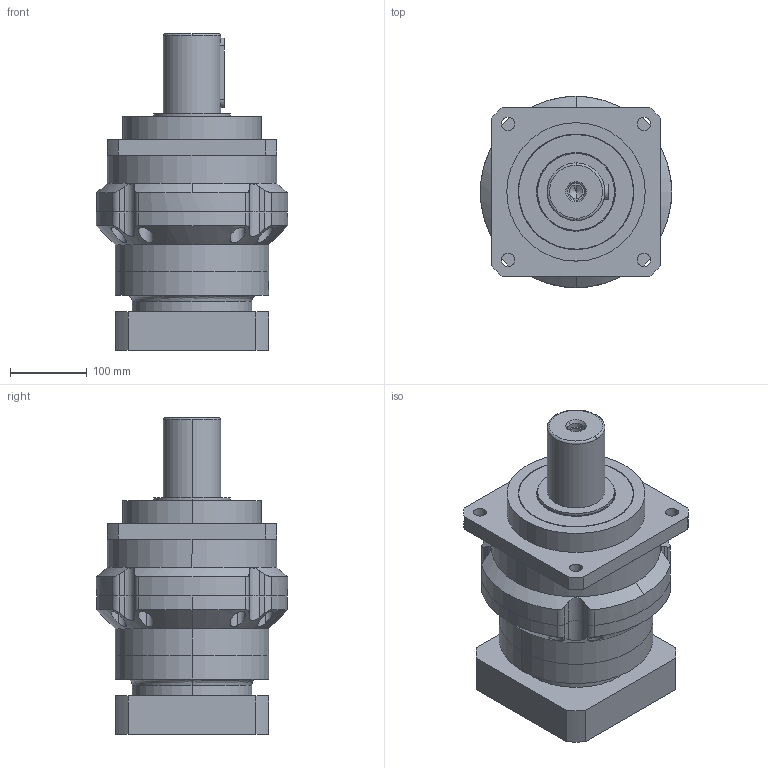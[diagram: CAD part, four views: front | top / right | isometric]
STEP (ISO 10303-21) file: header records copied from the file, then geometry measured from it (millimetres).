
FILE_DESCRIPTION (( 'STEP AP203' ), '1' );
FILE_NAME ('PLM220-L2-42-180-215输入轴92.5非标.STEP', '2024-02-23T07:01:46', ( 'Windows User' ), ( 'P R C' ), 'SwSTEP 2.0', 'SolidWorks 2016', '' );
FILE_SCHEMA (( 'CONFIG_CONTROL_DESIGN' ));
Length unit declared in the file: millimetre
Products named in the file (8): PLM220转架齿圈; PLM220二级齿圈; PLM220媼撰狟裔薊粣ん-42; PLM220-L2-42-180-215输入轴92.5非标; PLM220-LJ2-180-M12-215-LR92.5_D4-114.3 D7-200 D8-M12 A2-180 L5-10 L6-83(45+38) R-117 梓袧; 邧埴瑩 20x12x90; TC100-150-10_TC-34.9-55-7; hexagon socket head cap screw_jis_JIS B 1176 M12 x 35 (35) --N
Assembly tree (7 placements, depth 2):
  PLM220-L2-42-180-215输入轴92.5非标
    PLM220转架齿圈
    PLM220二级齿圈
    PLM220媼撰狟裔薊粣ん-42
    PLM220-LJ2-180-M12-215-LR92.5_D4-114.3 D7-200 D8-M12 A2-180 L5-10 L6-83(45+38) R-117 梓袧
    邧埴瑩 20x12x90
    TC100-150-10_TC-34.9-55-7
    hexagon socket head cap screw_jis_JIS B 1176 M12 x 35 (35) --N
Bounding box: 249 x 249 x 412 mm (x, y, z)
Volume: 10766438.4 mm3; surface area: 695812.6 mm2
Topology: 7 solids, 7 shells, 970 faces, 2539 edges, 1669 vertices
Faces by surface type: plane 551, cylinder 205, bspline 178, cone 36
Entity records: 40711 total; most frequent: CARTESIAN_POINT 16848, ORIENTED_EDGE 5042, DIRECTION 4183, EDGE_CURVE 2521, VECTOR 1671, LINE 1671, VERTEX_POINT 1669, AXIS2_PLACEMENT_3D 1256
